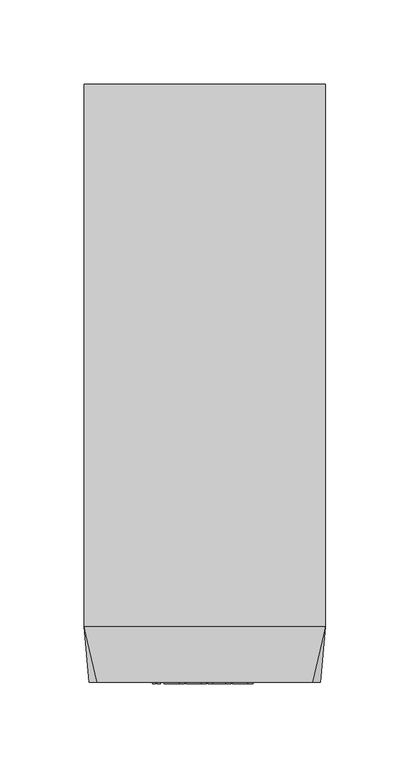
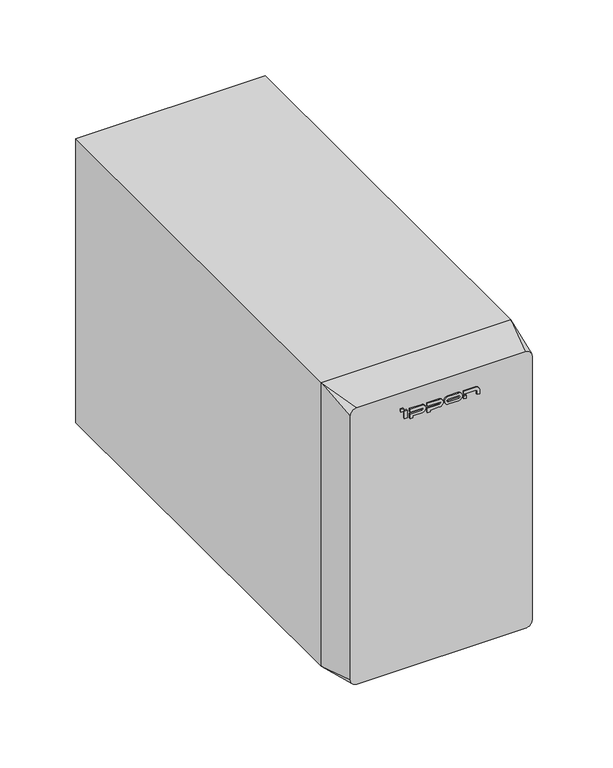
"""IFC4 building model written with IfcOpenShell, lengths in millimetres: proxy geometry, IPPON_ИБП_Innova G2 Euro_1000_2000_3000ВА : Innova G2 Euro 1000 ВА."""

from ifc_helpers import new_model, si_unit, point, frame, frame_2d, origin, place, context, project, spatial, polyline, circle_curve, trimmed, segment, composite_curve, outline, extrude, source, transform, mapped, element, save
from ifc_brep_helpers import plane_surface, spline_surface, advanced_brep


def electrical_equipment_e6eb0e22(model_context):
    return source(origin(), model_context, "Body", "SolidModel", [
        extrude(outline(polyline([(-29.1718133, -1.0), (-31.1718133, -1.0), (-31.1718133, 0.0), (-29.1718133, 0.0), (-29.1718133, -1.0)])), frame((0.0, 0.0, 210.4695835), z_axis=(0.0, 0.0, 1.0), x_axis=(1.0, 0.0, 0.0)), (0.0, 0.0, 1.0), 2.3),
        extrude(outline(polyline([(18.6035474, -1.0), (16.6035474, -1.0), (16.6035474, 0.0), (18.6035474, 0.0), (18.6035474, -1.0)])), frame((0.0, 0.0, 204.4695835), z_axis=(0.0, 0.0, 1.0), x_axis=(1.0, 0.0, 0.0)), (0.0, 0.0, 1.0), 2.2268231),
        extrude(outline(polyline([(-26.438565, -1.0), (-28.4833324, -1.0), (-28.4833324, 0.0), (-26.438565, 0.0), (-26.438565, -1.0)])), frame((0.0, 0.0, 204.4695835), z_axis=(0.0, 0.0, 1.0), x_axis=(1.0, 0.0, 0.0)), (0.0, 0.0, 1.0), 6.0),
        extrude(outline(composite_curve([segment(polyline([(208.2071435, -24.2241109), (208.2071435, -14.9923536)]), True, "CONTINUOUS"), segment(trimmed(circle_curve(frame_2d((207.3506642, -14.9923536)), 0.8564793), [point((208.2071435, -14.9923536))], [point((206.4941849, -14.9923536))], True, "CARTESIAN"), True, "CONTINUOUS"), segment(polyline([(206.4941849, -14.9923536), (206.4941849, -24.2241109), (203.0036803, -24.2241109), (203.0036803, -22.2241109), (204.4695835, -22.2241109), (204.4695835, -15.1486036)]), True, "CONTINUOUS"), segment(trimmed(circle_curve(frame_2d((207.4695835, -15.1486036)), 3.0), [point((204.4695835, -15.1486036))], [point((210.4695835, -15.1486036))], False, "CARTESIAN"), True, "CONTINUOUS"), segment(polyline([(210.4695835, -15.1486036), (210.4695835, -24.2241109), (208.2071435, -24.2241109)]), True, "CONTINUOUS")], self_intersect=False)), frame((0.0, -1.0, 0.0), z_axis=(0.0, 1.0, 0.0), x_axis=(0.0, 0.0, 1.0)), (0.0, 0.0, 1.0), 1.0),
        extrude(outline(composite_curve([segment(polyline([(208.2071435, -11.0171091), (208.2071435, -1.7853518)]), True, "CONTINUOUS"), segment(trimmed(circle_curve(frame_2d((207.3506642, -1.7853518)), 0.8564793), [point((208.2071435, -1.7853518))], [point((206.4941849, -1.7853518))], True, "CARTESIAN"), True, "CONTINUOUS"), segment(polyline([(206.4941849, -1.7853518), (206.4941849, -11.0171091), (203.0036803, -11.0171091), (203.0036803, -9.0171091), (204.4695835, -9.0171091), (204.4695835, -1.9416018)]), True, "CONTINUOUS"), segment(trimmed(circle_curve(frame_2d((207.4695835, -1.9416018)), 3.0), [point((204.4695835, -1.9416018))], [point((210.4695835, -1.9416018))], False, "CARTESIAN"), True, "CONTINUOUS"), segment(polyline([(210.4695835, -1.9416018), (210.4695835, -11.0171091), (208.2071435, -11.0171091)]), True, "CONTINUOUS")], self_intersect=False)), frame((0.0, -1.0, 0.0), z_axis=(0.0, 1.0, 0.0), x_axis=(0.0, 0.0, 1.0)), (0.0, 0.0, 1.0), 1.0),
        extrude(outline(composite_curve([segment(trimmed(circle_curve(frame_2d((207.4695835, 12.558657)), 3.0), [point((204.4695835, 12.558657))], [point((210.4695835, 12.558657))], False, "CARTESIAN"), True, "CONTINUOUS"), segment(polyline([(210.4695835, 12.558657), (210.4695835, 4.958657)]), True, "CONTINUOUS"), segment(trimmed(circle_curve(frame_2d((207.4695835, 4.958657)), 3.0), [point((210.4695835, 4.958657))], [point((204.4695835, 4.958657))], False, "CARTESIAN"), True, "CONTINUOUS"), segment(polyline([(204.4695835, 4.958657), (204.4695835, 12.558657)]), True, "CONTINUOUS")], self_intersect=False), holes=[composite_curve([segment(polyline([(206.4941849, 12.714907), (206.4941849, 4.802407)]), True, "CONTINUOUS"), segment(trimmed(circle_curve(frame_2d((207.3506642, 4.802407)), 0.8564793), [point((206.4941849, 4.802407))], [point((208.2071435, 4.802407))], True, "CARTESIAN"), True, "CONTINUOUS"), segment(polyline([(208.2071435, 4.802407), (208.2071435, 12.714907)]), True, "CONTINUOUS"), segment(trimmed(circle_curve(frame_2d((207.3506642, 12.714907)), 0.8564793), [point((208.2071435, 12.714907))], [point((206.4941849, 12.714907))], True, "CARTESIAN"), True, "CONTINUOUS")], self_intersect=False)]), frame((0.0, -1.0, 0.0), z_axis=(0.0, 1.0, 0.0), x_axis=(0.0, 0.0, 1.0)), (0.0, 0.0, 1.0), 1.0),
        extrude(outline(composite_curve([segment(polyline([(208.2071435, 16.6035474), (208.2071435, 25.8353046)]), True, "CONTINUOUS"), segment(trimmed(circle_curve(frame_2d((207.3506642, 25.8353046)), 0.8564793), [point((208.2071435, 25.8353046))], [point((207.3506642, 26.6917839))], True, "CARTESIAN"), True, "CONTINUOUS"), segment(polyline([(207.3506642, 26.6917839), (204.4695835, 26.6917839), (204.4695835, 28.6317921), (208.0, 28.6317921)]), True, "CONTINUOUS"), segment(trimmed(circle_curve(frame_2d((207.4695835, 25.6790546)), 3.0), [point((208.0, 28.6317921))], [point((210.4695835, 25.6790546))], False, "CARTESIAN"), True, "CONTINUOUS"), segment(polyline([(210.4695835, 25.6790546), (210.4695835, 16.6035474), (208.2071435, 16.6035474)]), True, "CONTINUOUS")], self_intersect=False)), frame((0.0, -1.0, 0.0), z_axis=(0.0, 1.0, 0.0), x_axis=(0.0, 0.0, 1.0)), (0.0, 0.0, 1.0), 1.0),
        advanced_brep(
        [(64.0, 0.0, 3.0), (69.0, 0.0, 8.0), (69.0, 0.0, 220.0), (64.0, 0.0, 225.0), (-64.0, 0.0, 225.0), (-69.0, 0.0, 220.0), (-69.0, 0.0, 8.0), (-64.0, 0.0, 3.0), (72.0, 33.0, 0.0), (72.0, 33.0, 228.0), (-72.0, 33.0, 228.0), (-72.0, 33.0, 0.0), (72.0, 356.0, 228.0), (72.0, 356.0, 0.0), (-72.0, 356.0, 0.0), (-72.0, 356.0, 228.0)],
        [
            (0, 1, circle_curve(frame((64.0, 0.0, 8.0), z_axis=(0.0, -1.0, 0.0), x_axis=(-1.0, 0.0, 0.0)), 5.0)),
            (1, 2),
            (2, 3, circle_curve(frame((64.0, 0.0, 220.0), z_axis=(0.0, -1.0, 0.0), x_axis=(-1.0, 0.0, 0.0)), 5.0)),
            (3, 4),
            (4, 5, circle_curve(frame((-64.0, 0.0, 220.0), z_axis=(0.0, -1.0, 0.0), x_axis=(-1.0, 0.0, 0.0)), 5.0)),
            (5, 6),
            (6, 7, circle_curve(frame((-64.0, 0.0, 8.0), z_axis=(0.0, -1.0, 0.0), x_axis=(-1.0, 0.0, 0.0)), 5.0)),
            (7, 0),
            (1, 8),
            (8, 9),
            (9, 2),
            (3, 9),
            (9, 10),
            (10, 4),
            (5, 10),
            (10, 11),
            (11, 6),
            (7, 11),
            (11, 8),
            (8, 0),
            (12, 13),
            (13, 14),
            (14, 15),
            (15, 12),
            (15, 10),
            (9, 12),
            (14, 11),
            (13, 8),
        ],
        [
            plane_surface(frame((0.0, 0.0, 114.0), z_axis=(0.0, -1.0, 0.0), x_axis=(1.0, 0.0, 0.0))),
            plane_surface(frame((72.0, 33.0, 114.0), z_axis=(0.9958932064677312, -0.09053574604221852, 0.0), x_axis=(0.0, 0.0, 1.0))),
            plane_surface(frame((0.0, 33.0, 228.0), z_axis=(0.0, -0.09053574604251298, 0.9958932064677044), x_axis=(-1.0, 0.0, 0.0))),
            plane_surface(frame((-72.0, 33.0, 114.0), z_axis=(-0.9958932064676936, -0.09053574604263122, 0.0), x_axis=(0.0, 0.0, -1.0))),
            plane_surface(frame((0.0, 33.0, 0.0), z_axis=(0.0, -0.09053574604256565, -0.9958932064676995), x_axis=(1.0, 0.0, 0.0))),
            plane_surface(frame((-72.0, 356.0, 228.0), z_axis=(0.0, 1.0, 0.0), x_axis=(1.0, 0.0, 0.0))),
            plane_surface(frame((72.0, 33.0, 228.0), z_axis=(0.0, 0.0, 1.0), x_axis=(0.0, 1.0, 0.0))),
            plane_surface(frame((-72.0, 33.0, 228.0), z_axis=(-1.0, 0.0, 0.0), x_axis=(0.0, 1.0, 0.0))),
            plane_surface(frame((-72.0, 33.0, 0.0), z_axis=(0.0, 0.0, -1.0), x_axis=(0.0, 1.0, 0.0))),
            plane_surface(frame((72.0, 33.0, 0.0), z_axis=(1.0, 0.0, 0.0), x_axis=(0.0, 1.0, 0.0))),
            spline_surface(2, 1, [[(72.0, 33.0, 0.0), (64.0, 0.0, 3.0)], [(72.0, 33.0, 0.0), (69.0, 0.0, 3.0)], [(72.0, 33.0, 0.0), (69.0, 0.0, 8.0)]], [3, 3], [2, 2], [0.0, 1.0], [0.0, 1.0], weights=[[1.0, 1.0], [0.7071067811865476, 0.7071067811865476], [1.0, 1.0]]),
            spline_surface(2, 1, [[(72.0, 33.0, 228.0), (69.0, 0.0, 220.0)], [(72.0, 33.0, 228.0), (69.0, 0.0, 225.0)], [(72.0, 33.0, 228.0), (64.0, 0.0, 225.0)]], [3, 3], [2, 2], [0.0, 1.0], [0.0, 1.0], weights=[[1.0, 1.0], [0.7071067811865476, 0.7071067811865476], [1.0, 1.0]]),
            spline_surface(2, 1, [[(-72.0, 33.0, 228.0), (-64.0, 0.0, 225.0)], [(-72.0, 33.0, 228.0), (-69.0, 0.0, 225.0)], [(-72.0, 33.0, 228.0), (-69.0, 0.0, 220.0)]], [3, 3], [2, 2], [0.0, 1.0], [0.0, 1.0], weights=[[1.0, 1.0], [0.7071067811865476, 0.7071067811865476], [1.0, 1.0]]),
            spline_surface(2, 1, [[(-72.0, 33.0, 0.0), (-69.0, 0.0, 8.0)], [(-72.0, 33.0, 0.0), (-69.0, 0.0, 3.0)], [(-72.0, 33.0, 0.0), (-64.0, 0.0, 3.0)]], [3, 3], [2, 2], [0.0, 1.0], [0.0, 1.0], weights=[[1.0, 1.0], [0.7071067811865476, 0.7071067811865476], [1.0, 1.0]]),
        ],
        [
            (0, [[1, 2, 3, 4, 5, 6, 7, 8]]),
            (1, [[-2, 9, 10, 11]]),
            (2, [[-4, 12, 13, 14]]),
            (3, [[-6, 15, 16, 17]]),
            (4, [[-8, 18, 19, 20]]),
            (5, [[21, 22, 23, 24]]),
            (6, [[-24, 25, -13, 26]]),
            (7, [[-23, 27, -16, -25]]),
            (8, [[-22, 28, -19, -27]]),
            (9, [[-21, -26, -10, -28]]),
            (10, [[-1, -20, -9]]),
            (11, [[-3, -11, -12]]),
            (12, [[-5, -14, -15]]),
            (13, [[-7, -17, -18]]),
        ],
    ),
    ])


if __name__ == "__main__":
    model = new_model("IFC4")
    model_context = context("Model", 3, world=origin())
    ifc_project = project(units=[si_unit("LENGTHUNIT", "METRE", prefix="MILLI")], contexts=[model_context])
    site = spatial("IfcSite", under=ifc_project)
    building = spatial("IfcBuilding", under=site)
    placement = place(None, origin())
    electrical_equipment_shape = electrical_equipment_e6eb0e22(model_context)
    element("IfcBuildingElementProxy", 1, Name="IPPON_ИБП_Innova G2 Euro_1000_2000_3000ВА : Innova G2 Euro 1000 ВА", ObjectType="IPPON_ИБП_Innova G2 Euro_1000_2000_3000ВА : Innova G2 Euro 1000 ВА", at=placement, inside=building, context=model_context, shape_type="MappedRepresentation", body=[
        mapped(electrical_equipment_shape, transform((0.0, 0.0, 0.0), x_axis=(1.0, 0.0, 0.0), y_axis=(0.0, 1.0, 0.0), z_axis=(0.0, 0.0, 1.0))),
    ])
    save(model, "model.ifc")
